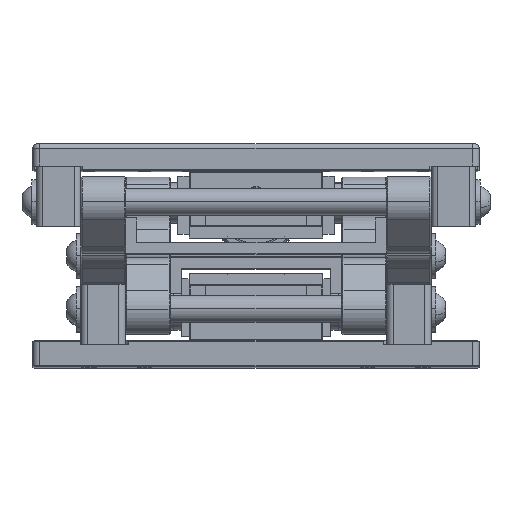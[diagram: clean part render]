
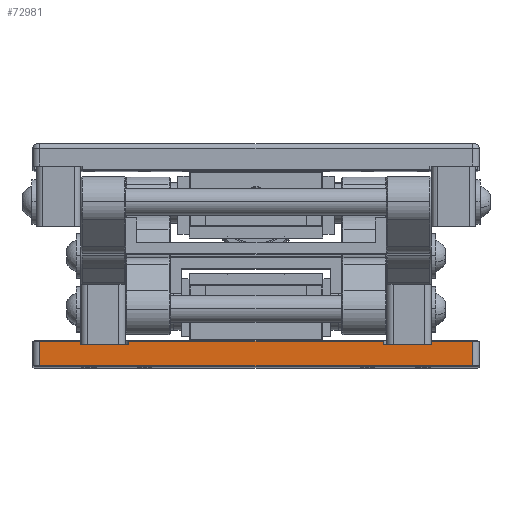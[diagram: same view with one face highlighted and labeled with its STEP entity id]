
A CAD part, top view. The second image highlights one B-rep face of the part: STEP entity #72981.
In plain terms, the highlighted planar face has unit normal (0, 0, 1).
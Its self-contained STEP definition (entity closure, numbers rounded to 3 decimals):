
#2871 = CARTESIAN_POINT ( 'NONE',  ( -182.055, 112.22, 300.002 ) ) ;
#3157 = DIRECTION ( 'NONE',  ( 1., 0., 0. ) ) ;
#3566 = CARTESIAN_POINT ( 'NONE',  ( -28.055, 102.72, 300.002 ) ) ;
#4089 = VECTOR ( 'NONE', #38793, 1000. ) ;
#5499 = EDGE_CURVE ( 'NONE', #56640, #14029, #11678, .T. ) ;
#5976 = ORIENTED_EDGE ( 'NONE', *, *, #44285, .T. ) ;
#8247 = VERTEX_POINT ( 'NONE', #31843 ) ;
#10656 = DIRECTION ( 'NONE',  ( 0., -1., 0. ) ) ;
#11678 = LINE ( 'NONE', #55434, #15284 ) ;
#11704 = EDGE_CURVE ( 'NONE', #14029, #60437, #68592, .T. ) ;
#12166 = VERTEX_POINT ( 'NONE', #29771 ) ;
#12197 = DIRECTION ( 'NONE',  ( 0., 1., 0. ) ) ;
#12407 = ORIENTED_EDGE ( 'NONE', *, *, #5499, .T. ) ;
#13888 = VECTOR ( 'NONE', #12197, 1000. ) ;
#14029 = VERTEX_POINT ( 'NONE', #29074 ) ;
#15212 = CARTESIAN_POINT ( 'NONE',  ( -222.055, 102.72, 300.002 ) ) ;
#15284 = VECTOR ( 'NONE', #43929, 1000. ) ;
#15461 = DIRECTION ( 'NONE',  ( -1., 0., 0. ) ) ;
#16425 = ORIENTED_EDGE ( 'NONE', *, *, #11704, .T. ) ;
#17749 = CARTESIAN_POINT ( 'NONE',  ( -203.555, 112.22, 300.002 ) ) ;
#18099 = CARTESIAN_POINT ( 'NONE',  ( -182.055, 113.72, 300.002 ) ) ;
#18288 = ORIENTED_EDGE ( 'NONE', *, *, #31270, .T. ) ;
#19537 = CARTESIAN_POINT ( 'NONE',  ( -68.055, 112.22, 300.002 ) ) ;
#20961 = LINE ( 'NONE', #23587, #25410 ) ;
#22382 = DIRECTION ( 'NONE',  ( -1., 0., 0. ) ) ;
#22844 = EDGE_LOOP ( 'NONE', ( #63532, #38840, #53125, #63336, #18288, #12407, #16425, #5976, #72736, #36347, #26390, #44767 ) ) ;
#22892 = EDGE_CURVE ( 'NONE', #8247, #64440, #24778, .T. ) ;
#23203 = CARTESIAN_POINT ( 'NONE',  ( -225.055, 113.72, 300.002 ) ) ;
#23587 = CARTESIAN_POINT ( 'NONE',  ( -28.055, 102.72, 300.002 ) ) ;
#23752 = LINE ( 'NONE', #58368, #49861 ) ;
#24778 = LINE ( 'NONE', #73792, #4089 ) ;
#25410 = VECTOR ( 'NONE', #52016, 1000. ) ;
#25510 = LINE ( 'NONE', #17749, #13888 ) ;
#25767 = LINE ( 'NONE', #19537, #69772 ) ;
#26390 = ORIENTED_EDGE ( 'NONE', *, *, #55072, .F. ) ;
#26981 = CARTESIAN_POINT ( 'NONE',  ( -222.055, 114.22, 300.002 ) ) ;
#27808 = EDGE_CURVE ( 'NONE', #36416, #35147, #23752, .T. ) ;
#27955 = DIRECTION ( 'NONE',  ( 0., 1., 0. ) ) ;
#29074 = CARTESIAN_POINT ( 'NONE',  ( -222.055, 113.72, 300.002 ) ) ;
#29771 = CARTESIAN_POINT ( 'NONE',  ( -68.055, 112.22, 300.002 ) ) ;
#29912 = VECTOR ( 'NONE', #63208, 1000. ) ;
#31270 = EDGE_CURVE ( 'NONE', #8247, #56640, #25510, .T. ) ;
#31843 = CARTESIAN_POINT ( 'NONE',  ( -203.555, 112.22, 300.002 ) ) ;
#32190 = EDGE_CURVE ( 'NONE', #12166, #46085, #42610, .T. ) ;
#33184 = LINE ( 'NONE', #73584, #52122 ) ;
#33475 = VERTEX_POINT ( 'NONE', #36954 ) ;
#33593 = CARTESIAN_POINT ( 'NONE',  ( -46.555, 112.22, 300.002 ) ) ;
#35147 = VERTEX_POINT ( 'NONE', #48035 ) ;
#35415 = AXIS2_PLACEMENT_3D ( 'NONE', #39748, #73023, #22382 ) ;
#36347 = ORIENTED_EDGE ( 'NONE', *, *, #45120, .T. ) ;
#36416 = VERTEX_POINT ( 'NONE', #3566 ) ;
#36954 = CARTESIAN_POINT ( 'NONE',  ( -46.555, 113.72, 300.002 ) ) ;
#38612 = CARTESIAN_POINT ( 'NONE',  ( -68.055, 113.72, 300.002 ) ) ;
#38739 = VERTEX_POINT ( 'NONE', #18099 ) ;
#38793 = DIRECTION ( 'NONE',  ( 1., 0., 0. ) ) ;
#38840 = ORIENTED_EDGE ( 'NONE', *, *, #46269, .T. ) ;
#39748 = CARTESIAN_POINT ( 'NONE',  ( -225.055, 114.22, 300.002 ) ) ;
#42075 = EDGE_CURVE ( 'NONE', #12166, #55331, #25767, .T. ) ;
#42610 = LINE ( 'NONE', #45968, #29912 ) ;
#43929 = DIRECTION ( 'NONE',  ( -1., 0., 0. ) ) ;
#44285 = EDGE_CURVE ( 'NONE', #60437, #36416, #20961, .T. ) ;
#44767 = ORIENTED_EDGE ( 'NONE', *, *, #42075, .F. ) ;
#44791 = PLANE ( 'NONE',  #35415 ) ;
#45120 = EDGE_CURVE ( 'NONE', #35147, #33475, #66634, .T. ) ;
#45779 = LINE ( 'NONE', #23203, #48482 ) ;
#45968 = CARTESIAN_POINT ( 'NONE',  ( -68.055, 112.22, 300.002 ) ) ;
#46085 = VERTEX_POINT ( 'NONE', #38612 ) ;
#46269 = EDGE_CURVE ( 'NONE', #46085, #38739, #45779, .T. ) ;
#47577 = EDGE_CURVE ( 'NONE', #64440, #38739, #74261, .T. ) ;
#48035 = CARTESIAN_POINT ( 'NONE',  ( -28.055, 113.72, 300.002 ) ) ;
#48482 = VECTOR ( 'NONE', #51875, 1000. ) ;
#49861 = VECTOR ( 'NONE', #64355, 1000. ) ;
#51429 = VECTOR ( 'NONE', #15461, 1000. ) ;
#51875 = DIRECTION ( 'NONE',  ( -1., 0., 0. ) ) ;
#52016 = DIRECTION ( 'NONE',  ( 1., 0., 0. ) ) ;
#52122 = VECTOR ( 'NONE', #27955, 1000. ) ;
#52480 = VECTOR ( 'NONE', #10656, 1000. ) ;
#53125 = ORIENTED_EDGE ( 'NONE', *, *, #47577, .F. ) ;
#54924 = CARTESIAN_POINT ( 'NONE',  ( -203.555, 113.72, 300.002 ) ) ;
#55072 = EDGE_CURVE ( 'NONE', #55331, #33475, #33184, .T. ) ;
#55331 = VERTEX_POINT ( 'NONE', #33593 ) ;
#55434 = CARTESIAN_POINT ( 'NONE',  ( -225.055, 113.72, 300.002 ) ) ;
#56640 = VERTEX_POINT ( 'NONE', #54924 ) ;
#58368 = CARTESIAN_POINT ( 'NONE',  ( -28.055, 114.22, 300.002 ) ) ;
#60437 = VERTEX_POINT ( 'NONE', #15212 ) ;
#63208 = DIRECTION ( 'NONE',  ( 0., 1., 0. ) ) ;
#63336 = ORIENTED_EDGE ( 'NONE', *, *, #22892, .F. ) ;
#63532 = ORIENTED_EDGE ( 'NONE', *, *, #32190, .T. ) ;
#64355 = DIRECTION ( 'NONE',  ( 0., 1., 0. ) ) ;
#64440 = VERTEX_POINT ( 'NONE', #69443 ) ;
#65388 = VECTOR ( 'NONE', #70925, 1000. ) ;
#66634 = LINE ( 'NONE', #68129, #51429 ) ;
#68129 = CARTESIAN_POINT ( 'NONE',  ( -225.055, 113.72, 300.002 ) ) ;
#68592 = LINE ( 'NONE', #26981, #52480 ) ;
#69443 = CARTESIAN_POINT ( 'NONE',  ( -182.055, 112.22, 300.002 ) ) ;
#69772 = VECTOR ( 'NONE', #3157, 1000. ) ;
#70925 = DIRECTION ( 'NONE',  ( 0., 1., 0. ) ) ;
#72683 = FACE_OUTER_BOUND ( 'NONE', #22844, .T. ) ;
#72736 = ORIENTED_EDGE ( 'NONE', *, *, #27808, .T. ) ;
#72981 = ADVANCED_FACE ( 'NONE', ( #72683 ), #44791, .F. ) ;
#73023 = DIRECTION ( 'NONE',  ( 0., 0., -1. ) ) ;
#73584 = CARTESIAN_POINT ( 'NONE',  ( -46.555, 112.22, 300.002 ) ) ;
#73792 = CARTESIAN_POINT ( 'NONE',  ( -182.055, 112.22, 300.002 ) ) ;
#74261 = LINE ( 'NONE', #2871, #65388 ) ;
